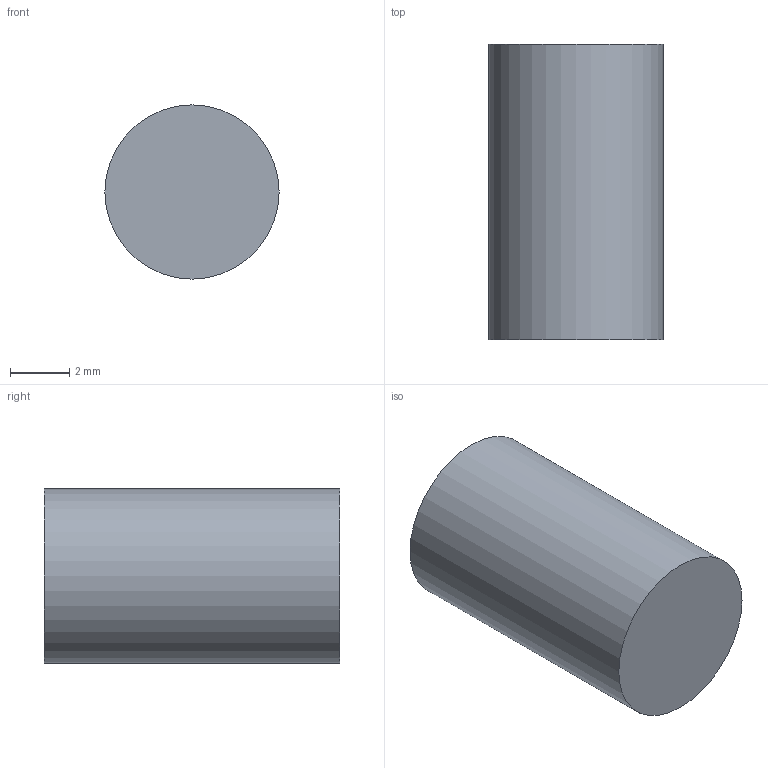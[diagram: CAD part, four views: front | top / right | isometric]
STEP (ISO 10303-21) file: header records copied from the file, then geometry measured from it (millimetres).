
FILE_DESCRIPTION(('Open CASCADE Model'),'2;1');
FILE_NAME('Open CASCADE Shape Model','2026-10-15T18:27:22',('Author'),( 'Open CASCADE'),'Open CASCADE STEP processor 7.9','Open CASCADE 7.9' ,'Unknown');
FILE_SCHEMA(('AUTOMOTIVE_DESIGN { 1 0 10303 214 1 1 1 1 }'));
Length unit declared in the file: millimetre
Products named in the file (1): Open CASCADE STEP translator 7.9 3
Bounding box: 5.9 x 10 x 5.9 mm (x, y, z)
Volume: 273.4 mm3; surface area: 240 mm2
Topology: 1 solids, 1 shells, 3 faces, 3 edges, 2 vertices
Faces by surface type: plane 2, cylinder 1
Full cylindrical faces by diameter (mm): 5.9 x1
Entity records: 108 total; most frequent: DIRECTION 19, CARTESIAN_POINT 15, AXIS2_PLACEMENT_3D 6, ORIENTED_EDGE 6, PCURVE 6, DEFINITIONAL_REPRESENTATION 6, LINE 5, VECTOR 5
